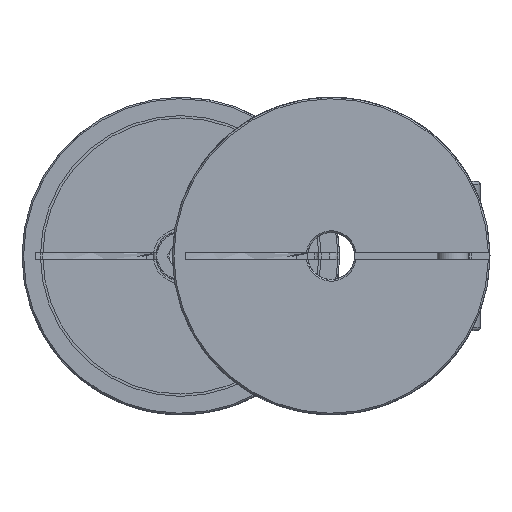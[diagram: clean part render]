
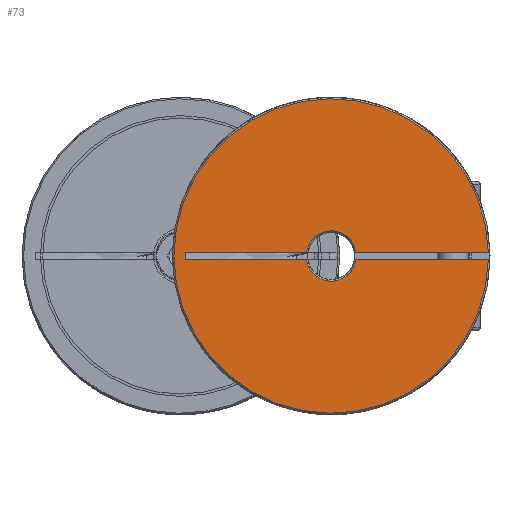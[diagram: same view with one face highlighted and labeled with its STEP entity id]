
A CAD part, left-side view. The second image highlights one B-rep face of the part: STEP entity #73.
In plain terms, the highlighted planar face has unit normal (-1, 0, 0).
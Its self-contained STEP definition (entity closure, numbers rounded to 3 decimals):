
#73 = ADVANCED_FACE( 'NONE', ( #144 ), #145, .F. );
#144 = FACE_OUTER_BOUND( '', #240, .T. );
#145 = PLANE( '', #241 );
#240 = EDGE_LOOP( '', ( #409, #410, #411, #412, #413, #414, #415, #416 ) );
#241 = AXIS2_PLACEMENT_3D( '', #417, #418, #419 );
#409 = ORIENTED_EDGE( '', *, *, #798, .T. );
#410 = ORIENTED_EDGE( '', *, *, #799, .T. );
#411 = ORIENTED_EDGE( '', *, *, #800, .T. );
#412 = ORIENTED_EDGE( '', *, *, #793, .T. );
#413 = ORIENTED_EDGE( '', *, *, #801, .F. );
#414 = ORIENTED_EDGE( '', *, *, #802, .T. );
#415 = ORIENTED_EDGE( '', *, *, #803, .F. );
#416 = ORIENTED_EDGE( '', *, *, #804, .T. );
#417 = CARTESIAN_POINT( '', ( 0., 3., 0. ) );
#418 = DIRECTION( '', ( 1., 0., 0. ) );
#419 = DIRECTION( '', ( 0., 1., 0. ) );
#793 = EDGE_CURVE( 'NONE', #1078, #1079, #1080, .F. );
#798 = EDGE_CURVE( 'NONE', #1087, #1088, #1089, .T. );
#799 = EDGE_CURVE( 'NONE', #1088, #1090, #1091, .T. );
#800 = EDGE_CURVE( 'NONE', #1090, #1078, #1092, .T. );
#801 = EDGE_CURVE( 'NONE', #1093, #1079, #1094, .F. );
#802 = EDGE_CURVE( 'NONE', #1093, #1095, #1096, .T. );
#803 = EDGE_CURVE( 'NONE', #1097, #1095, #1098, .F. );
#804 = EDGE_CURVE( 'NONE', #1097, #1087, #1099, .T. );
#1078 = VERTEX_POINT( 'NONE', #1597 );
#1079 = VERTEX_POINT( 'NONE', #1598 );
#1080 = CIRCLE( '', #1599, 20.05 );
#1087 = VERTEX_POINT( 'NONE', #1612 );
#1088 = VERTEX_POINT( 'NONE', #1613 );
#1089 = LINE( '', #1614, #1615 );
#1090 = VERTEX_POINT( 'NONE', #1616 );
#1091 = CIRCLE( '', #1617, 3.2 );
#1092 = LINE( '', #1618, #1619 );
#1093 = VERTEX_POINT( 'NONE', #1620 );
#1094 = LINE( '', #1621, #1622 );
#1095 = VERTEX_POINT( 'NONE', #1623 );
#1096 = CIRCLE( '', #1624, 3.2 );
#1097 = VERTEX_POINT( 'NONE', #1625 );
#1098 = LINE( '', #1626, #1627 );
#1099 = LINE( '', #1628, #1629 );
#1597 = CARTESIAN_POINT( '', ( 0., -20.044, 0.5 ) );
#1598 = CARTESIAN_POINT( '', ( 0., -20.044, -0.5 ) );
#1599 = AXIS2_PLACEMENT_3D( '', #1962, #1963, #1964 );
#1612 = CARTESIAN_POINT( '', ( 0., 18.545, 0.5 ) );
#1613 = CARTESIAN_POINT( '', ( 0., 3.161, 0.5 ) );
#1614 = CARTESIAN_POINT( '', ( 0., 3., 0.5 ) );
#1615 = VECTOR( '', #1968, 1000. );
#1616 = CARTESIAN_POINT( '', ( 0., -3.161, 0.5 ) );
#1617 = AXIS2_PLACEMENT_3D( '', #1969, #1970, #1971 );
#1618 = CARTESIAN_POINT( '', ( 0., 3., 0.5 ) );
#1619 = VECTOR( '', #1972, 1000. );
#1620 = CARTESIAN_POINT( '', ( 0., -3.161, -0.5 ) );
#1621 = CARTESIAN_POINT( '', ( 0., -3.5, -0.5 ) );
#1622 = VECTOR( '', #1973, 1000. );
#1623 = CARTESIAN_POINT( '', ( 0., 3.161, -0.5 ) );
#1624 = AXIS2_PLACEMENT_3D( '', #1974, #1975, #1976 );
#1625 = CARTESIAN_POINT( '', ( 0., 18.545, -0.5 ) );
#1626 = CARTESIAN_POINT( '', ( 0., -3.5, -0.5 ) );
#1627 = VECTOR( '', #1977, 1000. );
#1628 = CARTESIAN_POINT( '', ( 0., 18.545, -0.5 ) );
#1629 = VECTOR( '', #1978, 1000. );
#1962 = CARTESIAN_POINT( '', ( 0., 0., 0. ) );
#1963 = DIRECTION( '', ( 1., 0., 0. ) );
#1964 = DIRECTION( '', ( 0., 0., -1. ) );
#1968 = DIRECTION( '', ( 0., -1., 0. ) );
#1969 = CARTESIAN_POINT( '', ( 0., 0., 0. ) );
#1970 = DIRECTION( '', ( 1., 0., 0. ) );
#1971 = DIRECTION( '', ( 0., 0., -1. ) );
#1972 = DIRECTION( '', ( 0., -1., 0. ) );
#1973 = DIRECTION( '', ( 0., 1., 0. ) );
#1974 = CARTESIAN_POINT( '', ( 0., 0., 0. ) );
#1975 = DIRECTION( '', ( 1., 0., 0. ) );
#1976 = DIRECTION( '', ( 0., 0., -1. ) );
#1977 = DIRECTION( '', ( 0., 1., 0. ) );
#1978 = DIRECTION( '', ( 0., 0., 1. ) );
